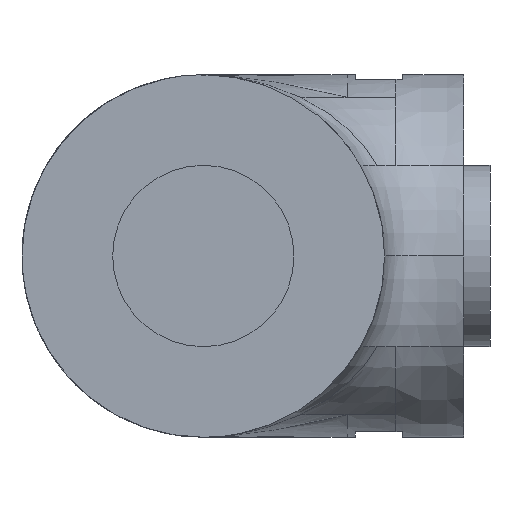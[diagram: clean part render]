
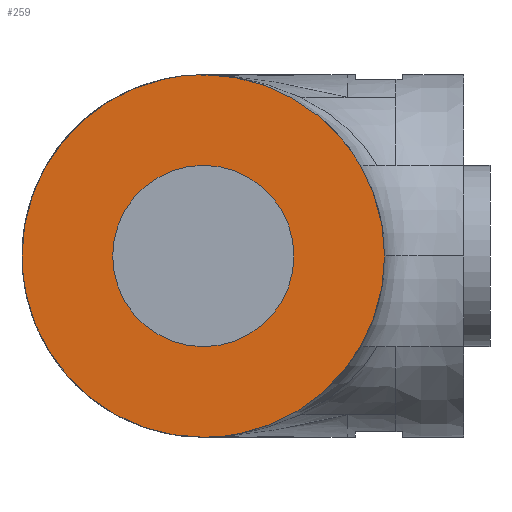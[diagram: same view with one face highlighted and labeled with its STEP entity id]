
A CAD part, front view. The second image highlights one B-rep face of the part: STEP entity #259.
In plain terms, the highlighted planar face has unit normal (0, -1, 0).
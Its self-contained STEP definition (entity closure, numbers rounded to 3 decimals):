
#259=ADVANCED_FACE('1300_MODEL-C002',(#813,#583),#5324,.T.);
#583=FACE_BOUND('',#4983,.T.);
#611=CIRCLE('',#16166,40.);
#612=CIRCLE('',#16167,40.);
#813=FACE_OUTER_BOUND('',#4982,.T.);
#1167=B_SPLINE_CURVE_WITH_KNOTS('',3,(#6085,#6087,#6088,#6089,#6090,#6091,
#6092,#6093,#6094,#6095,#6096,#6086),.UNSPECIFIED.,.F.,.U.,(4,1,1,1,1,1,
1,1,1,4),(0.,0.12,0.241,0.367,0.494,
0.62,0.684,0.747,0.873,1.),
 .UNSPECIFIED.);
#1172=B_SPLINE_CURVE_WITH_KNOTS('',3,(#6134,#6135,#6136,#6137,#6138,#6139,
#6140,#6141,#6142,#6143,#6132),.UNSPECIFIED.,.F.,.U.,(4,1,1,1,1,1,1,1,4),
(0.,0.126,0.252,0.378,0.504,0.628,
0.752,0.876,1.),.UNSPECIFIED.);
#1173=B_SPLINE_CURVE_WITH_KNOTS('',3,(#6144,#6145,#6146,#6147,#6148,#6149,
#6150,#6151,#6152,#6153,#6134),.UNSPECIFIED.,.F.,.U.,(4,1,1,1,1,1,1,1,4),
(0.,0.125,0.25,0.375,0.5,0.625,0.75,0.875,1.),.UNSPECIFIED.);
#1174=B_SPLINE_CURVE_WITH_KNOTS('',3,(#6154,#6155,#6156,#6157,#6158,#6159,
#6160,#6161,#6162,#6163,#6164,#6144),.UNSPECIFIED.,.F.,.U.,(4,1,1,1,1,1,
1,1,1,4),(0.,0.125,0.25,0.312,0.375,
0.5,0.625,0.75,0.875,1.),
 .UNSPECIFIED.);
#1175=B_SPLINE_CURVE_WITH_KNOTS('',3,(#6165,#6166,#6167,#6168,#6154),
 .UNSPECIFIED.,.F.,.U.,(4,1,4),(0.,0.5,1.),.UNSPECIFIED.);
#1176=B_SPLINE_CURVE_WITH_KNOTS('',3,(#6086,#6169,#6170,#6171,#6165),
 .UNSPECIFIED.,.F.,.U.,(4,1,4),(0.,0.5,1.),.UNSPECIFIED.);
#1560=ORIENTED_EDGE('',*,*,#3167,.F.);
#1561=ORIENTED_EDGE('',*,*,#3168,.F.);
#1562=ORIENTED_EDGE('',*,*,#3169,.F.);
#1563=ORIENTED_EDGE('',*,*,#3170,.F.);
#1564=ORIENTED_EDGE('',*,*,#3171,.F.);
#1565=ORIENTED_EDGE('',*,*,#3172,.F.);
#1566=ORIENTED_EDGE('',*,*,#3158,.F.);
#1567=ORIENTED_EDGE('',*,*,#3166,.T.);
#1568=ORIENTED_EDGE('',*,*,#3173,.T.);
#1569=ORIENTED_EDGE('',*,*,#3174,.F.);
#1570=ORIENTED_EDGE('',*,*,#3175,.F.);
#3158=EDGE_CURVE('57',#4507,#4508,#1167,.T.);
#3166=EDGE_CURVE('65',#4507,#4513,#4203,.T.);
#3167=EDGE_CURVE('66',#4514,#4515,#4204,.T.);
#3168=EDGE_CURVE('67',#4516,#4514,#1172,.T.);
#3169=EDGE_CURVE('68',#4517,#4516,#1173,.T.);
#3170=EDGE_CURVE('69',#4518,#4517,#1174,.T.);
#3171=EDGE_CURVE('70',#4519,#4518,#1175,.T.);
#3172=EDGE_CURVE('71',#4508,#4519,#1176,.T.);
#3173=EDGE_CURVE('72',#4513,#4515,#4205,.T.);
#3174=EDGE_CURVE('73',#4520,#4521,#611,.T.);
#3175=EDGE_CURVE('74',#4521,#4520,#612,.T.);
#3927=VECTOR('',#16572,0.494);
#3928=VECTOR('',#16572,0.494);
#3929=VECTOR('',#16574,2.);
#4203=LINE('',#6085,#3927);
#4204=LINE('',#6132,#3928);
#4205=LINE('',#6130,#3929);
#4507=VERTEX_POINT('48',#6085);
#4508=VERTEX_POINT('49',#6086);
#4513=VERTEX_POINT('54',#6130);
#4514=VERTEX_POINT('55',#6132);
#4515=VERTEX_POINT('56',#6133);
#4516=VERTEX_POINT('57',#6134);
#4517=VERTEX_POINT('58',#6144);
#4518=VERTEX_POINT('59',#6154);
#4519=VERTEX_POINT('60',#6165);
#4520=VERTEX_POINT('61',#6172);
#4521=VERTEX_POINT('62',#6173);
#4982=EDGE_LOOP('',(#1560,#1561,#1562,#1563,#1564,#1565,#1566,#1567,#1568));
#4983=EDGE_LOOP('',(#1569,#1570));
#5324=PLANE('',#16165);
#6085=CARTESIAN_POINT('',(1.,101.5,79.994));
#6086=CARTESIAN_POINT('',(69.282,101.5,40.));
#6087=CARTESIAN_POINT('',(4.324,101.5,79.952));
#6088=CARTESIAN_POINT('',(10.966,101.5,79.454));
#6089=CARTESIAN_POINT('',(20.923,101.5,77.441));
#6090=CARTESIAN_POINT('',(30.702,101.5,74.122));
#6091=CARTESIAN_POINT('',(40.114,101.5,69.48));
#6092=CARTESIAN_POINT('',(47.386,101.5,64.621));
#6093=CARTESIAN_POINT('',(52.785,101.5,60.19));
#6094=CARTESIAN_POINT('',(57.884,101.5,55.415));
#6095=CARTESIAN_POINT('',(63.65,101.5,48.84));
#6096=CARTESIAN_POINT('',(67.537,101.5,43.023));
#6130=CARTESIAN_POINT('',(1.,101.5,79.5));
#6131=CARTESIAN_POINT('',(-80.5,101.5,-80.5));
#6132=CARTESIAN_POINT('',(-1.,101.5,79.994));
#6133=CARTESIAN_POINT('',(-1.,101.5,79.5));
#6134=CARTESIAN_POINT('',(-80.,101.5,0.));
#6135=CARTESIAN_POINT('',(-80.,101.5,5.236));
#6136=CARTESIAN_POINT('',(-78.968,101.5,15.708));
#6137=CARTESIAN_POINT('',(-74.386,101.5,30.812));
#6138=CARTESIAN_POINT('',(-66.946,101.5,44.732));
#6139=CARTESIAN_POINT('',(-56.986,101.5,56.869));
#6140=CARTESIAN_POINT('',(-44.932,101.5,66.792));
#6141=CARTESIAN_POINT('',(-31.27,101.5,74.177));
#6142=CARTESIAN_POINT('',(-16.444,101.5,78.802));
#6143=CARTESIAN_POINT('',(-6.152,101.5,79.929));
#6144=CARTESIAN_POINT('',(0.,101.5,-80.));
#6145=CARTESIAN_POINT('',(-5.236,101.5,-80.));
#6146=CARTESIAN_POINT('',(-15.708,101.5,-78.968));
#6147=CARTESIAN_POINT('',(-30.812,101.5,-74.386));
#6148=CARTESIAN_POINT('',(-44.732,101.5,-66.946));
#6149=CARTESIAN_POINT('',(-56.933,101.5,-56.933));
#6150=CARTESIAN_POINT('',(-66.946,101.5,-44.732));
#6151=CARTESIAN_POINT('',(-74.386,101.5,-30.812));
#6152=CARTESIAN_POINT('',(-78.968,101.5,-15.708));
#6153=CARTESIAN_POINT('',(-80.,101.5,-5.236));
#6154=CARTESIAN_POINT('',(69.282,101.5,-40.));
#6155=CARTESIAN_POINT('',(67.537,101.5,-43.023));
#6156=CARTESIAN_POINT('',(63.65,101.5,-48.84));
#6157=CARTESIAN_POINT('',(57.884,101.5,-55.415));
#6158=CARTESIAN_POINT('',(52.785,101.5,-60.19));
#6159=CARTESIAN_POINT('',(47.386,101.5,-64.621));
#6160=CARTESIAN_POINT('',(40.114,101.5,-69.48));
#6161=CARTESIAN_POINT('',(30.702,101.5,-74.122));
#6162=CARTESIAN_POINT('',(20.765,101.5,-77.495));
#6163=CARTESIAN_POINT('',(10.472,101.5,-79.542));
#6164=CARTESIAN_POINT('',(3.491,101.5,-80.));
#6165=CARTESIAN_POINT('',(80.,101.5,0.));
#6166=CARTESIAN_POINT('',(80.,101.5,-6.981));
#6167=CARTESIAN_POINT('',(78.162,101.5,-20.943));
#6168=CARTESIAN_POINT('',(72.773,101.5,-33.954));
#6169=CARTESIAN_POINT('',(72.773,101.5,33.954));
#6170=CARTESIAN_POINT('',(78.162,101.5,20.943));
#6171=CARTESIAN_POINT('',(80.,101.5,6.981));
#6172=CARTESIAN_POINT('',(40.,101.5,0.));
#6173=CARTESIAN_POINT('',(-40.,101.5,0.));
#6174=CARTESIAN_POINT('',(0.,101.5,0.));
#6175=CARTESIAN_POINT('',(0.,101.5,0.));
#16165=AXIS2_PLACEMENT_3D('',#6131,#16575,#16571);
#16166=AXIS2_PLACEMENT_3D('',#6174,#16575,#16571);
#16167=AXIS2_PLACEMENT_3D('',#6175,#16575,#16576);
#16571=DIRECTION('',(1.,0.,0.));
#16572=DIRECTION('',(0.,0.,-1.));
#16574=DIRECTION('',(-1.,0.,0.));
#16575=DIRECTION('',(0.,-1.,0.));
#16576=DIRECTION('',(-1.,0.,0.));
